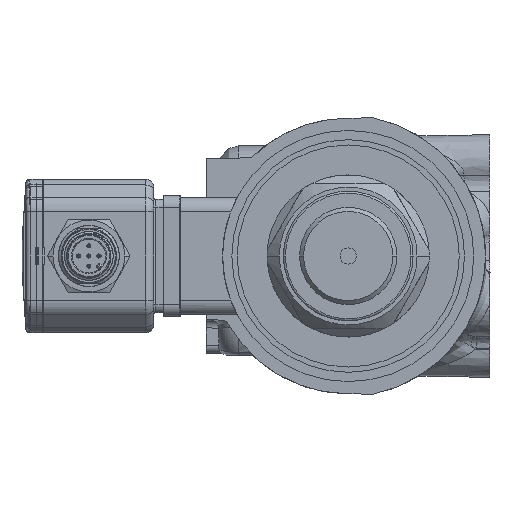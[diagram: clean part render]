
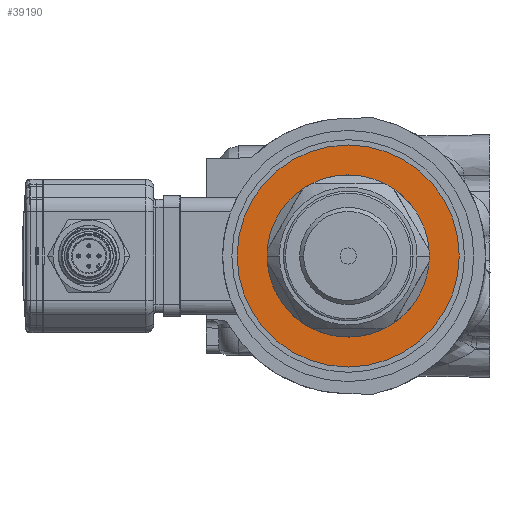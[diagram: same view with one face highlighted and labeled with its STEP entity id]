
A CAD part, left-side view. The second image highlights one B-rep face of the part: STEP entity #39190.
In plain terms, the highlighted planar face has unit normal (-1, 0, 0) as drawn and (1, 0, 0) by its records, which use the part's own axes.
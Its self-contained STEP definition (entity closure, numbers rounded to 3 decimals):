
#38010=CARTESIAN_POINT('',(72.,0.,0.));
#38011=DIRECTION('',(1.,0.,0.));
#38012=DIRECTION('',(0.,1.,0.));
#38013=AXIS2_PLACEMENT_3D('',#38010,#38011,#38012);
#38018=CARTESIAN_POINT('',(72.,0.,0.));
#38019=DIRECTION('',(1.,0.,0.));
#38020=DIRECTION('',(0.,-1.,0.));
#38021=AXIS2_PLACEMENT_3D('',#38018,#38019,#38020);
#38040=CARTESIAN_POINT('',(72.,0.,0.));
#38041=DIRECTION('',(-1.,0.,0.));
#38042=DIRECTION('',(0.,1.,0.));
#38043=AXIS2_PLACEMENT_3D('',#38040,#38041,#38042);
#38048=CARTESIAN_POINT('',(72.,0.,0.));
#38049=DIRECTION('',(1.,0.,0.));
#38050=DIRECTION('',(0.,1.,0.));
#38051=AXIS2_PLACEMENT_3D('',#38048,#38049,#38050);
#38456=CARTESIAN_POINT('',(72.,27.4,0.));
#38458=VERTEX_POINT('',#38456);
#38464=CARTESIAN_POINT('',(72.,-27.4,0.));
#38466=VERTEX_POINT('',#38464);
#38619=CARTESIAN_POINT('',(72.,15.5,0.));
#38620=CARTESIAN_POINT('',(72.,-15.5,0.));
#38621=VERTEX_POINT('',#38619);
#38622=VERTEX_POINT('',#38620);
#39174=CARTESIAN_POINT('',(72.,0.,0.));
#39175=DIRECTION('',(1.,0.,0.));
#39176=DIRECTION('',(0.,-1.,0.));
#39177=AXIS2_PLACEMENT_3D('',#39174,#39175,#39176);
#39178=PLANE('',#39177);
#39180=ORIENTED_EDGE('',*,*,#39179,.T.);
#39182=ORIENTED_EDGE('',*,*,#39181,.F.);
#39183=EDGE_LOOP('',(#39180,#39182));
#39184=FACE_OUTER_BOUND('',#39183,.F.);
#39185=ORIENTED_EDGE('',*,*,#39157,.T.);
#39187=ORIENTED_EDGE('',*,*,#39186,.T.);
#39188=EDGE_LOOP('',(#39185,#39187));
#39189=FACE_BOUND('',#39188,.F.);
#38014=CIRCLE('',#38013,15.5);
#38022=CIRCLE('',#38021,15.5);
#38044=CIRCLE('',#38043,27.4);
#38052=CIRCLE('',#38051,27.4);
#39157=EDGE_CURVE('',#38621,#38622,#38014,.T.);
#39179=EDGE_CURVE('',#38458,#38466,#38044,.T.);
#39181=EDGE_CURVE('',#38458,#38466,#38052,.T.);
#39186=EDGE_CURVE('',#38622,#38621,#38022,.T.);
#39190=ADVANCED_FACE('',(#39184,#39189),#39178,.T.);
